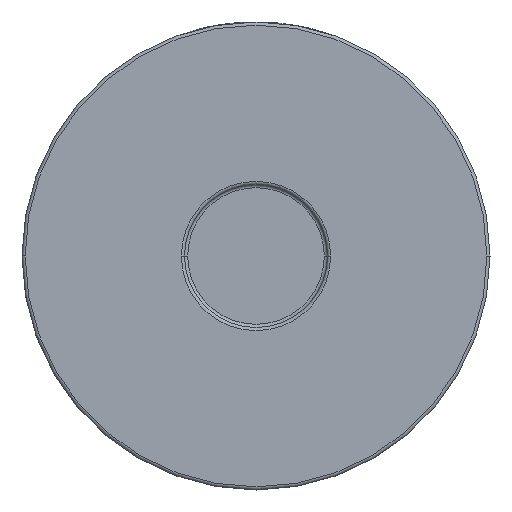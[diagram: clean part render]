
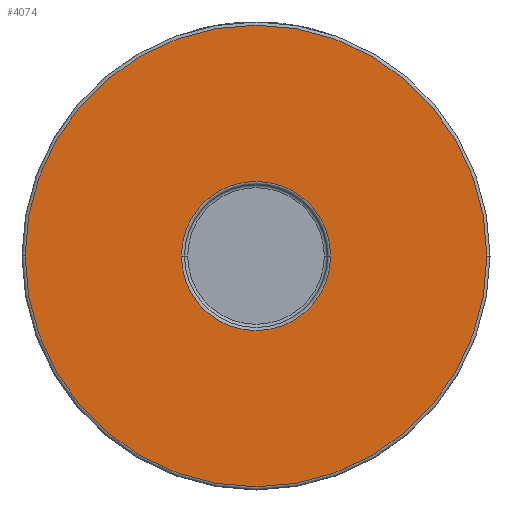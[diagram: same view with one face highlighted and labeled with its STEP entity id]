
A CAD part, front view. The second image highlights one B-rep face of the part: STEP entity #4074.
In plain terms, the highlighted planar face has unit normal (0, -1, 0).
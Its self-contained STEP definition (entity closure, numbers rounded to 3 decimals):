
#4 = PLANE ( 'NONE',  #1299 ) ;
#13 = CARTESIAN_POINT ( 'NONE',  ( 23.6, -31., 0. ) ) ;
#124 = AXIS2_PLACEMENT_3D ( 'NONE', #182, #1596, #3396 ) ;
#182 = CARTESIAN_POINT ( 'NONE',  ( 0., -31., 0. ) ) ;
#208 = CARTESIAN_POINT ( 'NONE',  ( -73., -31., 0. ) ) ;
#621 = EDGE_CURVE ( 'NONE', #4530, #3864, #4572, .T. ) ;
#839 = CARTESIAN_POINT ( 'NONE',  ( 0., -31., 0. ) ) ;
#1031 = EDGE_CURVE ( 'NONE', #4441, #1396, #3760, .T. ) ;
#1299 = AXIS2_PLACEMENT_3D ( 'NONE', #3099, #4509, #1815 ) ;
#1302 = ORIENTED_EDGE ( 'NONE', *, *, #621, .T. ) ;
#1396 = VERTEX_POINT ( 'NONE', #13 ) ;
#1481 = AXIS2_PLACEMENT_3D ( 'NONE', #3801, #2036, #1637 ) ;
#1494 = CARTESIAN_POINT ( 'NONE',  ( 73., -31., 0. ) ) ;
#1596 = DIRECTION ( 'NONE',  ( 0., -1., 0. ) ) ;
#1637 = DIRECTION ( 'NONE',  ( 1., 0., 0. ) ) ;
#1717 = FACE_OUTER_BOUND ( 'NONE', #2771, .T. ) ;
#1749 = AXIS2_PLACEMENT_3D ( 'NONE', #4214, #2491, #3884 ) ;
#1815 = DIRECTION ( 'NONE',  ( 1., 0., 0. ) ) ;
#1887 = DIRECTION ( 'NONE',  ( 1., 0., 0. ) ) ;
#1939 = CIRCLE ( 'NONE', #1481, 73. ) ;
#2036 = DIRECTION ( 'NONE',  ( 0., -1., 0. ) ) ;
#2126 = ORIENTED_EDGE ( 'NONE', *, *, #2237, .T. ) ;
#2237 = EDGE_CURVE ( 'NONE', #1396, #4441, #3619, .T. ) ;
#2414 = EDGE_CURVE ( 'NONE', #3864, #4530, #1939, .T. ) ;
#2491 = DIRECTION ( 'NONE',  ( 0., 1., 0. ) ) ;
#2771 = EDGE_LOOP ( 'NONE', ( #1302, #2920 ) ) ;
#2910 = CARTESIAN_POINT ( 'NONE',  ( -23.6, -31., 0. ) ) ;
#2911 = EDGE_LOOP ( 'NONE', ( #2126, #3681 ) ) ;
#2920 = ORIENTED_EDGE ( 'NONE', *, *, #2414, .T. ) ;
#2944 = AXIS2_PLACEMENT_3D ( 'NONE', #839, #3374, #1887 ) ;
#3099 = CARTESIAN_POINT ( 'NONE',  ( 74., -31., 0. ) ) ;
#3192 = FACE_BOUND ( 'NONE', #2911, .T. ) ;
#3374 = DIRECTION ( 'NONE',  ( 0., 1., 0. ) ) ;
#3396 = DIRECTION ( 'NONE',  ( 1., 0., 0. ) ) ;
#3619 = CIRCLE ( 'NONE', #2944, 23.6 ) ;
#3681 = ORIENTED_EDGE ( 'NONE', *, *, #1031, .T. ) ;
#3760 = CIRCLE ( 'NONE', #1749, 23.6 ) ;
#3801 = CARTESIAN_POINT ( 'NONE',  ( 0., -31., 0. ) ) ;
#3864 = VERTEX_POINT ( 'NONE', #208 ) ;
#3884 = DIRECTION ( 'NONE',  ( 1., 0., 0. ) ) ;
#4074 = ADVANCED_FACE ( 'NONE', ( #3192, #1717 ), #4, .T. ) ;
#4214 = CARTESIAN_POINT ( 'NONE',  ( 0., -31., 0. ) ) ;
#4441 = VERTEX_POINT ( 'NONE', #2910 ) ;
#4509 = DIRECTION ( 'NONE',  ( 0., -1., 0. ) ) ;
#4530 = VERTEX_POINT ( 'NONE', #1494 ) ;
#4572 = CIRCLE ( 'NONE', #124, 73. ) ;
